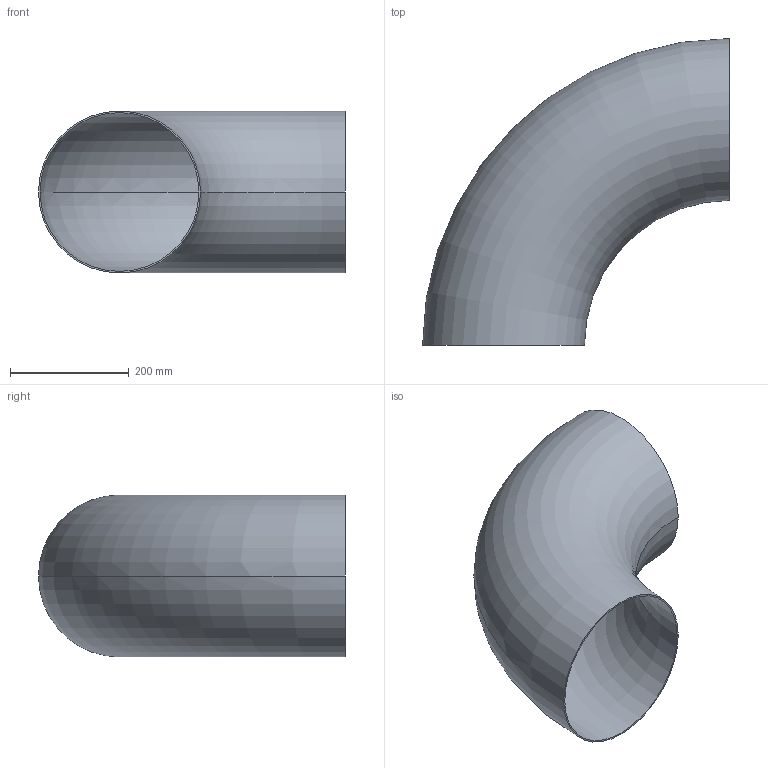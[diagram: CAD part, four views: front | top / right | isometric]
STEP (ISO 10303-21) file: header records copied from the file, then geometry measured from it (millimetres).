
FILE_DESCRIPTION (( 'STEP AP203' ), '1' );
FILE_NAME ('OT200-250-273x2_6_OSTP.step', '2020-12-16T03:03:26', ( '' ), ( '' ), 'SwSTEP 2.0', 'SolidWorks 2014', '' );
FILE_SCHEMA (( 'CONFIG_CONTROL_DESIGN' ));
Length unit declared in the file: millimetre
Products named in the file (1): OT200-250-273x2_6_OSTP
Bounding box: 517.5 x 517.5 x 273 mm (x, y, z)
Volume: 1321827.4 mm3; surface area: 1021207.7 mm2
Topology: 1 solids, 1 shells, 6 faces, 12 edges, 8 vertices
Faces by surface type: torus 4, plane 2
Entity records: 249 total; most frequent: DIRECTION 38, CARTESIAN_POINT 27, ORIENTED_EDGE 24, AXIS2_PLACEMENT_3D 19, CIRCLE 12, EDGE_CURVE 12, EDGE_LOOP 8, VERTEX_POINT 8
